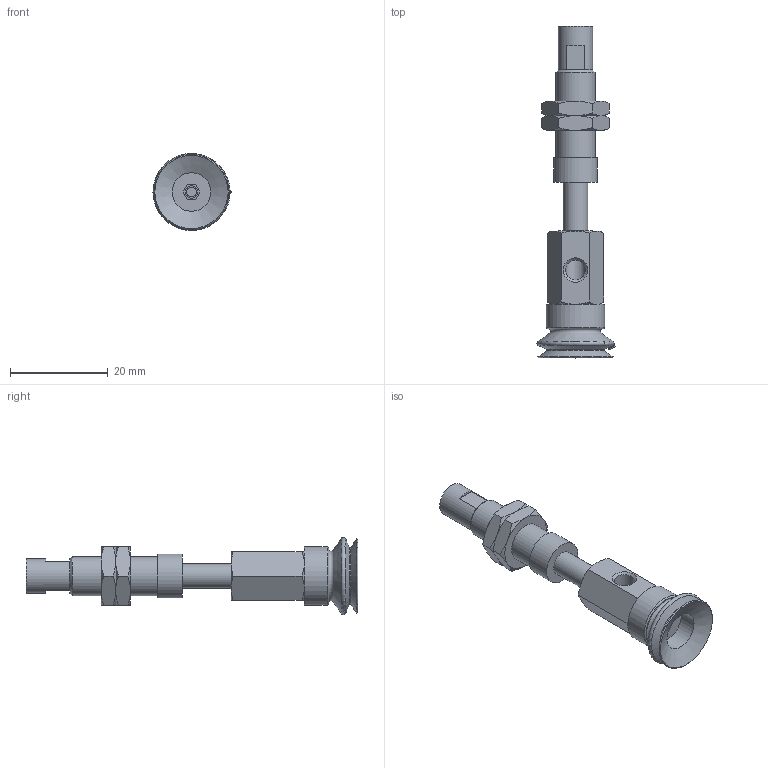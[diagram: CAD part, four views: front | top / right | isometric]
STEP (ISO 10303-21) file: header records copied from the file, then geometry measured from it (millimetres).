
FILE_DESCRIPTION(('STEP AP203'),'1');
FILE_NAME('.stp','2025-04-24T00:51:49',(' '),(' '),'Spatial InterOp 3D',' ',' ');
FILE_SCHEMA(('CONFIG_CONTROL_DESIGN'));
Length unit declared in the file: millimetre
Products named in the file (7): BNABPJYS-15-10-※; Adapter-15-NAPJ; CONNECTOR_S-15-10; NUT-NAPJ-15-10-s; NAPJTS-15-10-FBODY; NAPJTS-15-10-MBODY; BPJG-15-※
Assembly tree (7 placements, depth 2):
  BNABPJYS-15-10-※
    Adapter-15-NAPJ
    CONNECTOR_S-15-10
    NUT-NAPJ-15-10-s  x2
    NAPJTS-15-10-FBODY
    NAPJTS-15-10-MBODY
    BPJG-15-※
Bounding box: 15.99 x 68 x 15.78 mm (x, y, z)
Volume: 4289.7 mm3; surface area: 5110.9 mm2
Topology: 7 solids, 7 shells, 151 faces, 323 edges, 193 vertices
Faces by surface type: plane 59, cone 55, cylinder 18, torus 9, bspline 6, sphere 4
Full cylindrical faces by diameter (mm): 2 x1, 2.5 x1, 4.134 x3, 4.6 x1, 5 x4, 7 x1, 7.188 x2, 7.9 x1, 8 x2, 9 x1, 12 x1
Entity records: 3784 total; most frequent: CARTESIAN_POINT 919, DIRECTION 532, ORIENTED_EDGE 450, AXIS2_PLACEMENT_3D 233, EDGE_CURVE 225, EDGE_LOOP 187, VERTEX_POINT 156, FACE_OUTER_BOUND 152
